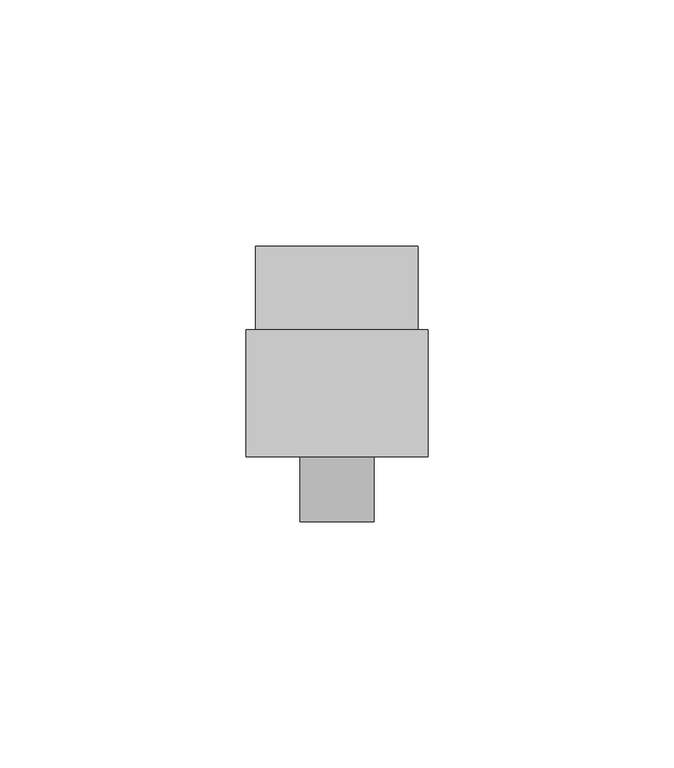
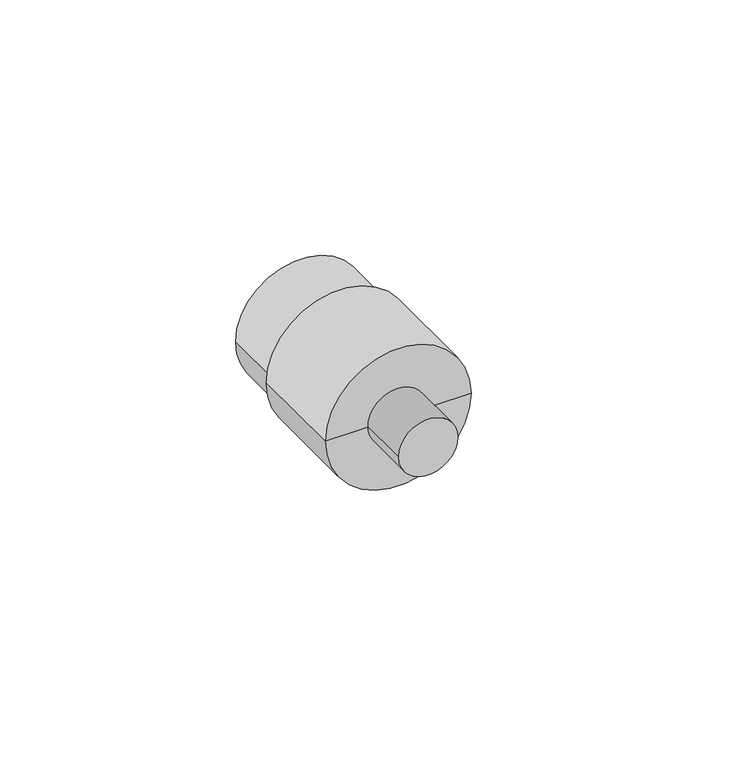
"""IFC4 building model written with IfcOpenShell, lengths in millimetres: pipe fitting geometry, NIRON RED termofusion roscado enlace rosca macho : Estándar."""

from ifc_helpers import new_model, si_unit, point, frame, origin, origin_2d, place, context, project, spatial, circle_curve, trimmed, segment, composite_curve, outline, extrude, source, transform, mapped, element, save
from ifc_brep_helpers import plane_surface, cylinder_surface, advanced_brep


def pipe_fitting_46de7b48(model_context):
    return source(origin(), model_context, "Body", "SolidModel", [
        extrude(outline(composite_curve([segment(trimmed(circle_curve(origin_2d(), 7.5), [point((0.0, -7.5))], [point((0.0, 7.5))], False, "CARTESIAN"), True, "CONTINUOUS"), segment(trimmed(circle_curve(origin_2d(), 7.5), [point((0.0, 7.5))], [point((0.0, -7.5))], False, "CARTESIAN"), True, "CONTINUOUS")], self_intersect=False)), frame((0.0, -5.0, 0.0), z_axis=(0.0, 1.0, 0.0), x_axis=(0.0, 0.0, 1.0)), (0.0, 0.0, 1.0), 30.0),
        advanced_brep(
        [(16.5, 51.0, 0.0), (-16.5, 51.0, 0.0), (0.0, 51.0, 0.0), (18.5, 8.2, 0.0), (-18.5, 8.2, 0.0), (-18.5, 34.0, 0.0), (18.5, 34.0, 0.0), (0.0, 8.2, 0.0), (16.5, 34.0, 0.0), (-16.5, 34.0, 0.0)],
        [
            (0, 1, circle_curve(frame((0.0, 51.0, 0.0), z_axis=(0.0, 1.0, 0.0), x_axis=(-1.0, 0.0, 0.0)), 16.5)),
            (1, 2),
            (2, 0),
            (1, 0, circle_curve(frame((0.0, 51.0, 0.0), z_axis=(0.0, 1.0, 0.0), x_axis=(-1.0, 0.0, 0.0)), 16.5)),
            (3, 4, circle_curve(frame((0.0, 8.2, 0.0), z_axis=(0.0, 1.0, 0.0), x_axis=(-1.0, 0.0, 0.0)), 18.5)),
            (4, 5),
            (5, 6, circle_curve(frame((0.0, 34.0, 0.0), z_axis=(0.0, -1.0, 0.0), x_axis=(-1.0, 0.0, 0.0)), 18.5)),
            (6, 3),
            (4, 3, circle_curve(frame((0.0, 8.2, 0.0), z_axis=(0.0, 1.0, 0.0), x_axis=(-1.0, 0.0, 0.0)), 18.5)),
            (6, 5, circle_curve(frame((0.0, 34.0, 0.0), z_axis=(0.0, -1.0, 0.0), x_axis=(-1.0, 0.0, 0.0)), 18.5)),
            (7, 4),
            (3, 7),
            (8, 9, circle_curve(frame((0.0, 34.0, 0.0), z_axis=(0.0, 1.0, 0.0), x_axis=(-1.0, 0.0, 0.0)), 16.5)),
            (9, 1),
            (0, 8),
            (9, 8, circle_curve(frame((0.0, 34.0, 0.0), z_axis=(0.0, 1.0, 0.0), x_axis=(-1.0, 0.0, 0.0)), 16.5)),
            (5, 9),
            (8, 6),
        ],
        [
            plane_surface(frame((0.0, 51.0, 0.0), z_axis=(0.0, 1.0, 0.0), x_axis=(-1.0, 0.0, 0.0))),
            cylinder_surface(frame((0.0, 61.0, 0.0), z_axis=(0.0, -1.0, 0.0), x_axis=(-1.0, 0.0, 0.0)), 18.5),
            plane_surface(frame((0.0, 8.2, 0.0), z_axis=(0.0, -1.0, 0.0), x_axis=(-1.0, 0.0, 0.0))),
            cylinder_surface(frame((0.0, 61.0, 0.0), z_axis=(0.0, -1.0, 0.0), x_axis=(-1.0, 0.0, 0.0)), 16.5),
            plane_surface(frame((0.0, 34.0, 0.0), z_axis=(0.0, 1.0, 0.0), x_axis=(-1.0, 0.0, 0.0))),
        ],
        [
            (0, [[1, 2, 3]]),
            (0, [[4, -3, -2]]),
            (1, [[5, 6, 7, 8]]),
            (1, [[9, -8, 10, -6]]),
            (2, [[11, -5, 12]]),
            (2, [[-12, -9, -11]]),
            (3, [[13, 14, -1, 15]]),
            (3, [[16, -15, -4, -14]]),
            (4, [[-7, 17, -13, 18]]),
            (4, [[-10, -18, -16, -17]]),
        ],
    ),
    ])


if __name__ == "__main__":
    model = new_model("IFC4")
    model_context = context("Model", 3, world=origin())
    ifc_project = project(units=[si_unit("LENGTHUNIT", "METRE", prefix="MILLI")], contexts=[model_context])
    site = spatial("IfcSite", under=ifc_project)
    building = spatial("IfcBuilding", under=site)
    placement = place(None, origin())
    pipe_fitting_shape = pipe_fitting_46de7b48(model_context)
    element("IfcPipeFitting", 1, ObjectType="NIRON RED termofusion roscado enlace rosca macho : Estándar", at=placement, inside=building, context=model_context, shape_type="MappedRepresentation", body=[
        mapped(pipe_fitting_shape, transform((0.0, 0.0, 0.0), x_axis=(1.0, 0.0, 0.0), y_axis=(0.0, 1.0, 0.0), z_axis=(0.0, 0.0, 1.0))),
    ])
    save(model, "model.ifc")
